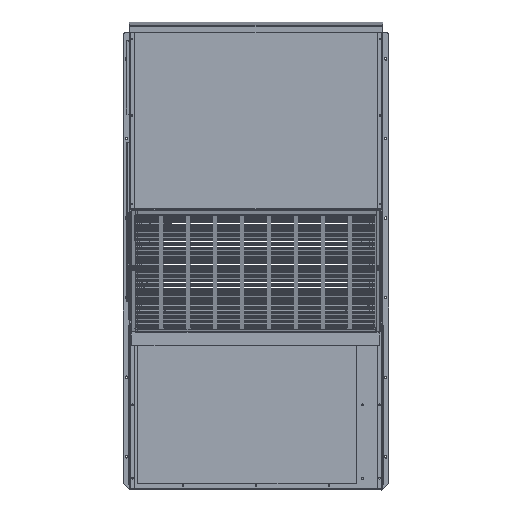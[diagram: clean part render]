
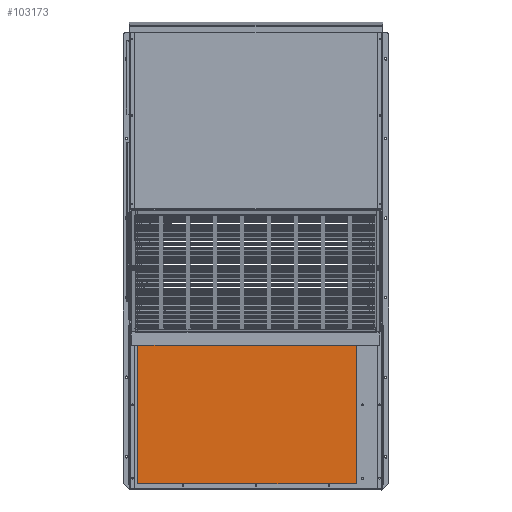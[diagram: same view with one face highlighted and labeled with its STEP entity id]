
A CAD part, top view. The second image highlights one B-rep face of the part: STEP entity #103173.
In plain terms, the highlighted planar face has unit normal (0, 0, 1).
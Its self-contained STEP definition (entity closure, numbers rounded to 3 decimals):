
#3912 = LINE ( 'NONE', #147756, #141113 ) ;
#21597 = EDGE_CURVE ( 'NONE', #152259, #108129, #204447, .T. ) ;
#24685 = DIRECTION ( 'NONE',  ( -1., 0., 0. ) ) ;
#25920 = DIRECTION ( 'NONE',  ( 1., 0., 0. ) ) ;
#26484 = ORIENTED_EDGE ( 'NONE', *, *, #21597, .F. ) ;
#38045 = ORIENTED_EDGE ( 'NONE', *, *, #217956, .F. ) ;
#40628 = DIRECTION ( 'NONE',  ( 0., 1., 0. ) ) ;
#48717 = LINE ( 'NONE', #133089, #143860 ) ;
#54492 = CARTESIAN_POINT ( 'NONE',  ( -3.858, 24.047, 0.149 ) ) ;
#55405 = DIRECTION ( 'NONE',  ( 0., 1., 0. ) ) ;
#75993 = EDGE_LOOP ( 'NONE', ( #38045, #148632, #26484, #135294 ) ) ;
#90710 = CARTESIAN_POINT ( 'NONE',  ( -3.858, 24.047, 0.149 ) ) ;
#96004 = VECTOR ( 'NONE', #24685, 39.37 ) ;
#103173 = ADVANCED_FACE ( 'NONE', ( #142720 ), #197811, .F. ) ;
#108129 = VERTEX_POINT ( 'NONE', #180805 ) ;
#113899 = CARTESIAN_POINT ( 'NONE',  ( -36.784, 0.149, 0.149 ) ) ;
#125976 = CARTESIAN_POINT ( 'NONE',  ( -36.784, 24.047, 0.149 ) ) ;
#126492 = CARTESIAN_POINT ( 'NONE',  ( -3.858, 24.047, 0.149 ) ) ;
#128248 = VERTEX_POINT ( 'NONE', #172378 ) ;
#133089 = CARTESIAN_POINT ( 'NONE',  ( -36.784, 24.047, 0.149 ) ) ;
#135294 = ORIENTED_EDGE ( 'NONE', *, *, #209645, .F. ) ;
#141113 = VECTOR ( 'NONE', #40628, 39.37 ) ;
#142720 = FACE_OUTER_BOUND ( 'NONE', #75993, .T. ) ;
#143574 = LINE ( 'NONE', #113899, #96004 ) ;
#143667 = DIRECTION ( 'NONE',  ( 0., -1., 0. ) ) ;
#143860 = VECTOR ( 'NONE', #25920, 39.37 ) ;
#147756 = CARTESIAN_POINT ( 'NONE',  ( -36.784, 24.047, 0.149 ) ) ;
#148632 = ORIENTED_EDGE ( 'NONE', *, *, #191658, .F. ) ;
#151207 = VECTOR ( 'NONE', #143667, 39.37 ) ;
#152259 = VERTEX_POINT ( 'NONE', #90710 ) ;
#162585 = DIRECTION ( 'NONE',  ( 0., 0., -1. ) ) ;
#169378 = AXIS2_PLACEMENT_3D ( 'NONE', #126492, #162585, #55405 ) ;
#172378 = CARTESIAN_POINT ( 'NONE',  ( -36.784, 0.149, 0.149 ) ) ;
#180805 = CARTESIAN_POINT ( 'NONE',  ( -3.858, 0.149, 0.149 ) ) ;
#191658 = EDGE_CURVE ( 'NONE', #108129, #128248, #143574, .T. ) ;
#197811 = PLANE ( 'NONE',  #169378 ) ;
#204447 = LINE ( 'NONE', #54492, #151207 ) ;
#209645 = EDGE_CURVE ( 'NONE', #225175, #152259, #48717, .T. ) ;
#217956 = EDGE_CURVE ( 'NONE', #128248, #225175, #3912, .T. ) ;
#225175 = VERTEX_POINT ( 'NONE', #125976 ) ;
